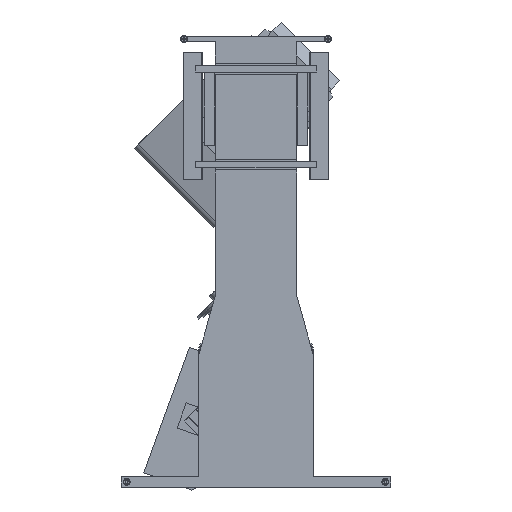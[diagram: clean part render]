
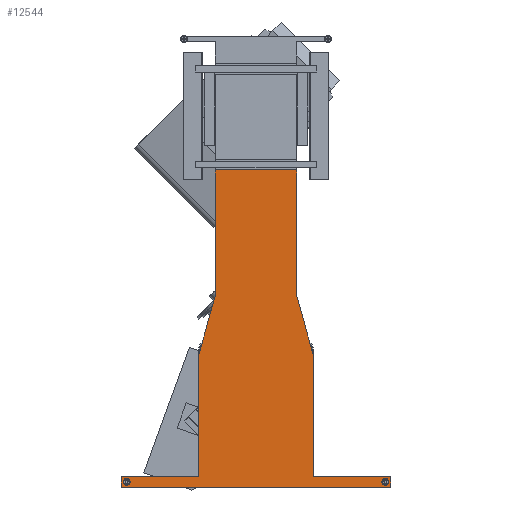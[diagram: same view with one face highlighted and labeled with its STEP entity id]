
A CAD part, front view. The second image highlights one B-rep face of the part: STEP entity #12544.
In plain terms, the highlighted planar face has unit normal (0, -1, 0).
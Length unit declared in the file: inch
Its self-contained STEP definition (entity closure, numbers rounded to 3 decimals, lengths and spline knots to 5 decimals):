
#236 = LINE ( 'NONE', #1796, #12592 ) ;
#245 = PLANE ( 'NONE',  #749 ) ;
#321 = DIRECTION ( 'NONE',  ( 0., 0., -1. ) ) ;
#400 = EDGE_LOOP ( 'NONE', ( #19955, #11121 ) ) ;
#530 = EDGE_CURVE ( 'NONE', #4028, #14013, #9678, .T. ) ;
#561 = DIRECTION ( 'NONE',  ( 0., 0., -1. ) ) ;
#749 = AXIS2_PLACEMENT_3D ( 'NONE', #6828, #17473, #561 ) ;
#867 = ORIENTED_EDGE ( 'NONE', *, *, #6885, .T. ) ;
#884 = VERTEX_POINT ( 'NONE', #12796 ) ;
#1111 = DIRECTION ( 'NONE',  ( 0., 0., -1. ) ) ;
#1166 = DIRECTION ( 'NONE',  ( 0., 0., -1. ) ) ;
#1307 = DIRECTION ( 'NONE',  ( 0., -1., 0. ) ) ;
#1343 = CARTESIAN_POINT ( 'NONE',  ( -25.25, 1.5, -42.125 ) ) ;
#1344 = DIRECTION ( 'NONE',  ( 0., 0., 1. ) ) ;
#1678 = DIRECTION ( 'NONE',  ( -1., 0., 0. ) ) ;
#1737 = ORIENTED_EDGE ( 'NONE', *, *, #16692, .F. ) ;
#1796 = CARTESIAN_POINT ( 'NONE',  ( -7.625, 1.5, 42.125 ) ) ;
#1860 = ORIENTED_EDGE ( 'NONE', *, *, #13006, .F. ) ;
#2208 = DIRECTION ( 'NONE',  ( 0., 0., -1. ) ) ;
#2235 = CARTESIAN_POINT ( 'NONE',  ( 25.25, 1.5, -40.125 ) ) ;
#2470 = CARTESIAN_POINT ( 'NONE',  ( -25.25, 1.5, -42.125 ) ) ;
#3185 = VERTEX_POINT ( 'NONE', #8807 ) ;
#3319 = ORIENTED_EDGE ( 'NONE', *, *, #14629, .T. ) ;
#3487 = VECTOR ( 'NONE', #2208, 39.37008 ) ;
#3650 = ORIENTED_EDGE ( 'NONE', *, *, #6907, .T. ) ;
#4028 = VERTEX_POINT ( 'NONE', #19615 ) ;
#4200 = DIRECTION ( 'NONE',  ( 0., 0., -1. ) ) ;
#4462 = EDGE_CURVE ( 'NONE', #12369, #16025, #9131, .T. ) ;
#5387 = DIRECTION ( 'NONE',  ( 0., -1., 0. ) ) ;
#5698 = VECTOR ( 'NONE', #6908, 39.37008 ) ;
#5702 = VECTOR ( 'NONE', #10845, 39.37008 ) ;
#6091 = LINE ( 'NONE', #10496, #19088 ) ;
#6229 = CARTESIAN_POINT ( 'NONE',  ( 10.75, 1.5, -40.125 ) ) ;
#6268 = DIRECTION ( 'NONE',  ( -1., 0., 0. ) ) ;
#6703 = LINE ( 'NONE', #19191, #5698 ) ;
#6708 = CARTESIAN_POINT ( 'NONE',  ( 24.25, 1.5, -41.125 ) ) ;
#6828 = CARTESIAN_POINT ( 'NONE',  ( 0., 1.5, 0. ) ) ;
#6885 = EDGE_CURVE ( 'NONE', #10935, #15393, #16940, .T. ) ;
#6903 = ORIENTED_EDGE ( 'NONE', *, *, #13707, .T. ) ;
#6907 = EDGE_CURVE ( 'NONE', #7230, #10935, #18567, .T. ) ;
#6908 = DIRECTION ( 'NONE',  ( 0., 0., -1. ) ) ;
#6926 = FACE_OUTER_BOUND ( 'NONE', #14175, .T. ) ;
#7223 = CARTESIAN_POINT ( 'NONE',  ( -10.75, 1.5, -42.125 ) ) ;
#7230 = VERTEX_POINT ( 'NONE', #7971 ) ;
#7324 = VERTEX_POINT ( 'NONE', #2235 ) ;
#7532 = EDGE_LOOP ( 'NONE', ( #19709, #14685 ) ) ;
#7612 = DIRECTION ( 'NONE',  ( 0., 0., -1. ) ) ;
#7709 = EDGE_CURVE ( 'NONE', #20108, #7230, #17656, .T. ) ;
#7821 = EDGE_CURVE ( 'NONE', #9821, #12465, #8857, .T. ) ;
#7903 = VERTEX_POINT ( 'NONE', #20308 ) ;
#7971 = CARTESIAN_POINT ( 'NONE',  ( -10.75, 1.5, -40.125 ) ) ;
#8056 = CARTESIAN_POINT ( 'NONE',  ( 25.25, 1.5, -40.125 ) ) ;
#8304 = AXIS2_PLACEMENT_3D ( 'NONE', #6708, #5387, #321 ) ;
#8369 = FACE_BOUND ( 'NONE', #400, .T. ) ;
#8497 = ORIENTED_EDGE ( 'NONE', *, *, #8716, .T. ) ;
#8507 = LINE ( 'NONE', #16295, #15553 ) ;
#8703 = VECTOR ( 'NONE', #7612, 39.37008 ) ;
#8716 = EDGE_CURVE ( 'NONE', #7324, #9821, #17356, .T. ) ;
#8807 = CARTESIAN_POINT ( 'NONE',  ( 25.25, 1.5, -42.125 ) ) ;
#8857 = LINE ( 'NONE', #12039, #15594 ) ;
#9131 = LINE ( 'NONE', #18540, #19066 ) ;
#9287 = DIRECTION ( 'NONE',  ( 0., 0., 1. ) ) ;
#9678 = CIRCLE ( 'NONE', #12620, 0.25 ) ;
#9799 = FACE_BOUND ( 'NONE', #7532, .T. ) ;
#9803 = DIRECTION ( 'NONE',  ( -0.268, 0., -0.964 ) ) ;
#9821 = VERTEX_POINT ( 'NONE', #6229 ) ;
#10363 = CARTESIAN_POINT ( 'NONE',  ( 24.25, 1.5, -41.375 ) ) ;
#10386 = EDGE_CURVE ( 'NONE', #884, #12369, #236, .T. ) ;
#10477 = CARTESIAN_POINT ( 'NONE',  ( 7.625, 1.5, 17.375 ) ) ;
#10496 = CARTESIAN_POINT ( 'NONE',  ( 25.25, 1.5, -42.125 ) ) ;
#10674 = VERTEX_POINT ( 'NONE', #18953 ) ;
#10845 = DIRECTION ( 'NONE',  ( -1., 0., 0. ) ) ;
#10864 = EDGE_CURVE ( 'NONE', #14013, #4028, #11290, .T. ) ;
#10935 = VERTEX_POINT ( 'NONE', #18417 ) ;
#11121 = ORIENTED_EDGE ( 'NONE', *, *, #15392, .F. ) ;
#11151 = CARTESIAN_POINT ( 'NONE',  ( -7.625, 1.5, -42.125 ) ) ;
#11290 = CIRCLE ( 'NONE', #13593, 0.25 ) ;
#11578 = DIRECTION ( 'NONE',  ( -0.268, 0., 0.964 ) ) ;
#11618 = DIRECTION ( 'NONE',  ( 0., -1., 0. ) ) ;
#11725 = CARTESIAN_POINT ( 'NONE',  ( -24.25, 1.5, -41.125 ) ) ;
#11819 = VERTEX_POINT ( 'NONE', #10363 ) ;
#12039 = CARTESIAN_POINT ( 'NONE',  ( 10.75, 1.5, -42.125 ) ) ;
#12104 = DIRECTION ( 'NONE',  ( 1., 0., 0. ) ) ;
#12259 = CARTESIAN_POINT ( 'NONE',  ( -24.25, 1.5, -41.375 ) ) ;
#12369 = VERTEX_POINT ( 'NONE', #13796 ) ;
#12432 = CARTESIAN_POINT ( 'NONE',  ( 25.25, 1.5, -40.125 ) ) ;
#12465 = VERTEX_POINT ( 'NONE', #13074 ) ;
#12544 = ADVANCED_FACE ( 'NONE', ( #9799, #8369, #6926 ), #245, .T. ) ;
#12592 = VECTOR ( 'NONE', #9287, 39.37008 ) ;
#12620 = AXIS2_PLACEMENT_3D ( 'NONE', #11725, #11618, #13137 ) ;
#12768 = CARTESIAN_POINT ( 'NONE',  ( -10.75, 1.5, -17.375 ) ) ;
#12796 = CARTESIAN_POINT ( 'NONE',  ( -7.625, 1.5, -6.125 ) ) ;
#12909 = VECTOR ( 'NONE', #9803, 39.37008 ) ;
#12935 = ORIENTED_EDGE ( 'NONE', *, *, #4462, .F. ) ;
#13000 = VECTOR ( 'NONE', #1678, 39.37008 ) ;
#13006 = EDGE_CURVE ( 'NONE', #16025, #10674, #6703, .T. ) ;
#13074 = CARTESIAN_POINT ( 'NONE',  ( 10.75, 1.5, -17.375 ) ) ;
#13137 = DIRECTION ( 'NONE',  ( 0., 0., -1. ) ) ;
#13513 = DIRECTION ( 'NONE',  ( 0., -1., 0. ) ) ;
#13593 = AXIS2_PLACEMENT_3D ( 'NONE', #13811, #13513, #4200 ) ;
#13707 = EDGE_CURVE ( 'NONE', #884, #20108, #17780, .T. ) ;
#13722 = CARTESIAN_POINT ( 'NONE',  ( 24.25, 1.5, -41.125 ) ) ;
#13796 = CARTESIAN_POINT ( 'NONE',  ( -7.625, 1.5, 17.375 ) ) ;
#13811 = CARTESIAN_POINT ( 'NONE',  ( -24.25, 1.5, -41.125 ) ) ;
#14013 = VERTEX_POINT ( 'NONE', #12259 ) ;
#14175 = EDGE_LOOP ( 'NONE', ( #12935, #17157, #6903, #18645, #3650, #867, #1737, #14234, #8497, #14891, #3319, #1860 ) ) ;
#14187 = EDGE_CURVE ( 'NONE', #11819, #7903, #17447, .T. ) ;
#14234 = ORIENTED_EDGE ( 'NONE', *, *, #15697, .F. ) ;
#14629 = EDGE_CURVE ( 'NONE', #12465, #10674, #8507, .T. ) ;
#14685 = ORIENTED_EDGE ( 'NONE', *, *, #530, .F. ) ;
#14891 = ORIENTED_EDGE ( 'NONE', *, *, #7821, .T. ) ;
#15392 = EDGE_CURVE ( 'NONE', #7903, #11819, #18773, .T. ) ;
#15393 = VERTEX_POINT ( 'NONE', #2470 ) ;
#15553 = VECTOR ( 'NONE', #11578, 39.37008 ) ;
#15594 = VECTOR ( 'NONE', #1344, 39.37008 ) ;
#15697 = EDGE_CURVE ( 'NONE', #7324, #3185, #6091, .T. ) ;
#16025 = VERTEX_POINT ( 'NONE', #10477 ) ;
#16295 = CARTESIAN_POINT ( 'NONE',  ( 7.625, 1.5, -6.125 ) ) ;
#16692 = EDGE_CURVE ( 'NONE', #3185, #15393, #20179, .T. ) ;
#16940 = LINE ( 'NONE', #1343, #8703 ) ;
#17157 = ORIENTED_EDGE ( 'NONE', *, *, #10386, .F. ) ;
#17356 = LINE ( 'NONE', #8056, #13000 ) ;
#17447 = CIRCLE ( 'NONE', #8304, 0.25 ) ;
#17473 = DIRECTION ( 'NONE',  ( 0., -1., 0. ) ) ;
#17656 = LINE ( 'NONE', #7223, #3487 ) ;
#17780 = LINE ( 'NONE', #12768, #12909 ) ;
#18372 = CARTESIAN_POINT ( 'NONE',  ( -10.75, 1.5, -17.375 ) ) ;
#18417 = CARTESIAN_POINT ( 'NONE',  ( -25.25, 1.5, -40.125 ) ) ;
#18501 = VECTOR ( 'NONE', #6268, 39.37008 ) ;
#18540 = CARTESIAN_POINT ( 'NONE',  ( 0., 1.5, 17.375 ) ) ;
#18567 = LINE ( 'NONE', #12432, #18501 ) ;
#18645 = ORIENTED_EDGE ( 'NONE', *, *, #7709, .T. ) ;
#18773 = CIRCLE ( 'NONE', #19428, 0.25 ) ;
#18953 = CARTESIAN_POINT ( 'NONE',  ( 7.625, 1.5, -6.125 ) ) ;
#19066 = VECTOR ( 'NONE', #12104, 39.37008 ) ;
#19088 = VECTOR ( 'NONE', #1166, 39.37008 ) ;
#19191 = CARTESIAN_POINT ( 'NONE',  ( 7.625, 1.5, 42.125 ) ) ;
#19428 = AXIS2_PLACEMENT_3D ( 'NONE', #13722, #1307, #1111 ) ;
#19615 = CARTESIAN_POINT ( 'NONE',  ( -24.25, 1.5, -40.875 ) ) ;
#19709 = ORIENTED_EDGE ( 'NONE', *, *, #10864, .F. ) ;
#19955 = ORIENTED_EDGE ( 'NONE', *, *, #14187, .F. ) ;
#20108 = VERTEX_POINT ( 'NONE', #18372 ) ;
#20179 = LINE ( 'NONE', #11151, #5702 ) ;
#20308 = CARTESIAN_POINT ( 'NONE',  ( 24.25, 1.5, -40.875 ) ) ;
